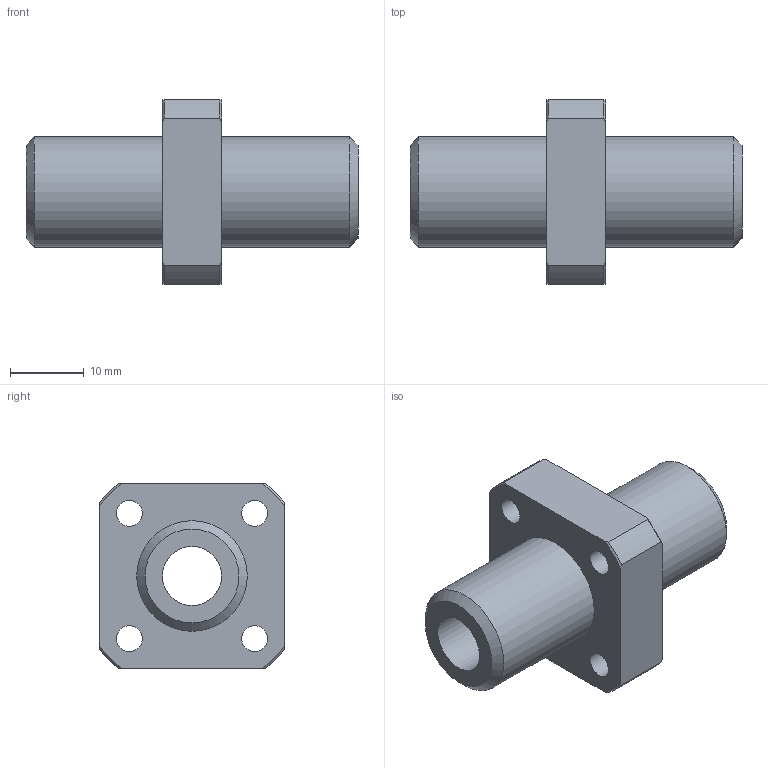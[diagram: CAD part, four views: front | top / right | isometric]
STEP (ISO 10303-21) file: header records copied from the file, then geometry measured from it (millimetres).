
FILE_DESCRIPTION(('STEP AP203'),'1');
FILE_NAME('//192.168.1.1/share/s-4 技術開発/s-4-4_CAD/s-4-4-3_見直し済み/PBC LINEAR修正済み/CFPJ/CFPJ_TOP/CFPJ/CFPJ08.step','2022-03-24T04:09:31',(' '),(' '),'Spatial InterOp 3D',' ',' ');
FILE_SCHEMA(('CONFIG_CONTROL_DESIGN'));
Length unit declared in the file: millimetre
Products named in the file (1): 1
Bounding box: 45 x 25 x 25 mm (x, y, z)
Volume: 8583.7 mm3; surface area: 5054.3 mm2
Topology: 1 solids, 1 shells, 37 faces, 90 edges, 61 vertices
Faces by surface type: cylinder 15, plane 12, cone 10
Full cylindrical faces by diameter (mm): 3.5 x4, 6 x4, 8 x1, 15 x2
Entity records: 1078 total; most frequent: CARTESIAN_POINT 214, DIRECTION 172, ORIENTED_EDGE 144, AXIS2_PLACEMENT_3D 78, EDGE_CURVE 72, EDGE_LOOP 66, VERTEX_POINT 56, FACE_OUTER_BOUND 48
